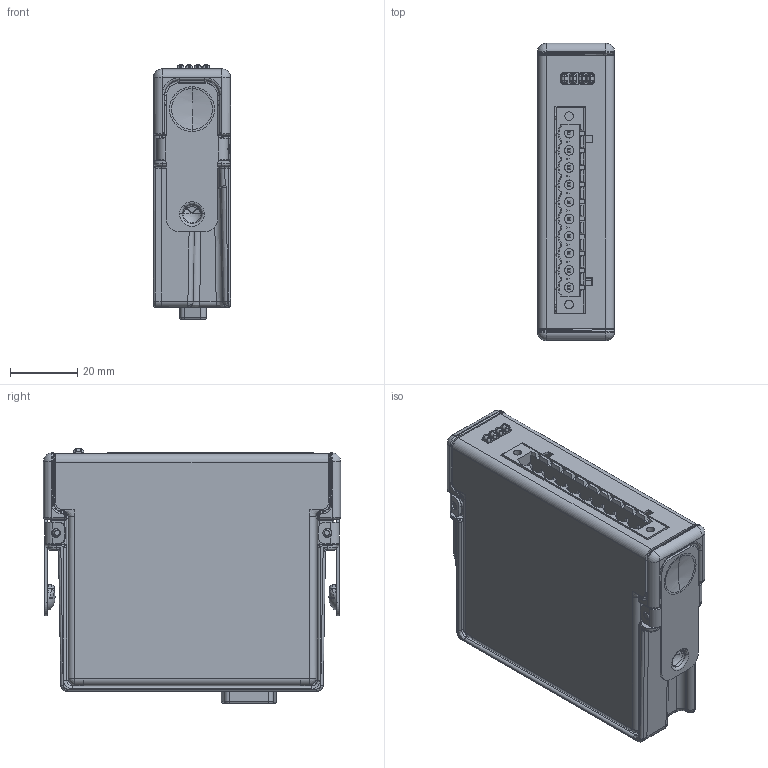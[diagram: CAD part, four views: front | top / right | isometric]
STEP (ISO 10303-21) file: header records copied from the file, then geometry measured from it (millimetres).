
FILE_DESCRIPTION((''),'2;1');
FILE_NAME('CU_NI-9482','2015-11-09T',('dkendric'),(''),'PRO/ENGINEER BY PARAMETRIC TECHNOLOGY CORPORATION, 2015280','PRO/ENGINEER BY PARAMETRIC TECHNOLOGY CORPORATION, 2015280','');
FILE_SCHEMA(('CONFIG_CONTROL_DESIGN'));
Products named in the file (1): CU_NI-9482
Bounding box: 22.86 x 88.11 x 75.51 mm (x, y, z)
Volume: 42077.3 mm3; surface area: 48960 mm2
Topology: 14 solids, 14 shells, 2426 faces, 5628 edges, 3296 vertices
Faces by surface type: plane 1239, cylinder 573, bspline 381, sphere 95, cone 72, torus 60, extrusion 6
Entity records: 89067 total; most frequent: CARTESIAN_POINT 37217, ORIENTED_EDGE 11112, DIRECTION 9902, EDGE_CURVE 5556, AXIS2_PLACEMENT_3D 3365, VERTEX_POINT 3334, VECTOR 3172, LINE 3166
